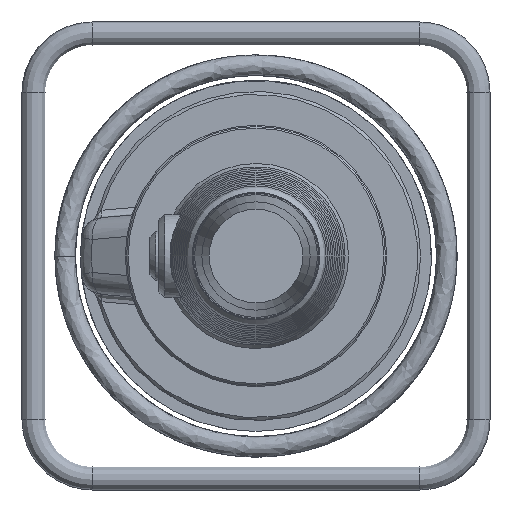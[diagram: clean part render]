
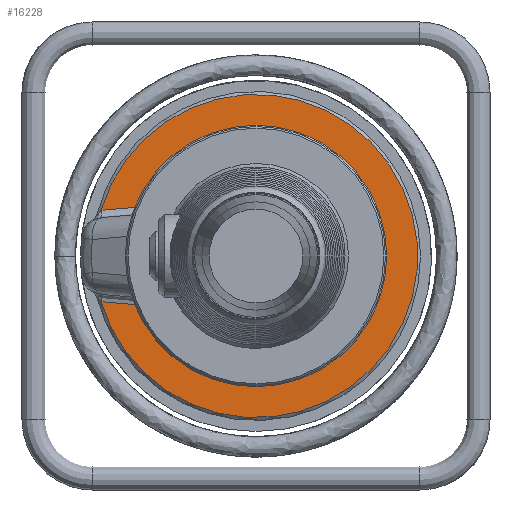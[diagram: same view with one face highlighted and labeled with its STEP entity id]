
A CAD part, left-side view. The second image highlights one B-rep face of the part: STEP entity #16228.
In plain terms, the highlighted planar face has unit normal (-1, 0, 0).
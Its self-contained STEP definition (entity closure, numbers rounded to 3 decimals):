
#1957=PLANE('',#17171);
#2751=FACE_OUTER_BOUND('',#3852,.T.);
#3852=EDGE_LOOP('',(#14413,#14414,#14415,#14416));
#5073=LINE('',#37358,#5989);
#5074=LINE('',#37362,#5990);
#5989=VECTOR('',#19920,40.842);
#5990=VECTOR('',#19923,40.842);
#6347=CIRCLE('',#17172,110.5);
#6348=CIRCLE('',#17173,74.);
#7904=VERTEX_POINT('',#37356);
#7905=VERTEX_POINT('',#37357);
#7906=VERTEX_POINT('',#37359);
#7907=VERTEX_POINT('',#37361);
#10122=EDGE_CURVE('',#7904,#7905,#5073,.T.);
#10123=EDGE_CURVE('',#7906,#7904,#6347,.T.);
#10124=EDGE_CURVE('',#7907,#7906,#5074,.T.);
#10125=EDGE_CURVE('',#7907,#7905,#6348,.T.);
#14413=ORIENTED_EDGE('',*,*,#10122,.F.);
#14414=ORIENTED_EDGE('',*,*,#10123,.F.);
#14415=ORIENTED_EDGE('',*,*,#10124,.F.);
#14416=ORIENTED_EDGE('',*,*,#10125,.T.);
#16228=ADVANCED_FACE('',(#2751),#1957,.T.);
#17171=AXIS2_PLACEMENT_3D('',#37355,#19918,#19919);
#17172=AXIS2_PLACEMENT_3D('',#37360,#19921,#19922);
#17173=AXIS2_PLACEMENT_3D('',#37363,#19924,#19925);
#19918=DIRECTION('center_axis',(-1.,0.,0.));
#19919=DIRECTION('ref_axis',(0.,0.,1.));
#19920=DIRECTION('',(0.,-0.996,-0.087));
#19921=DIRECTION('center_axis',(1.,0.,0.));
#19922=DIRECTION('ref_axis',(0.,-1.,0.));
#19923=DIRECTION('',(0.,0.996,-0.087));
#19924=DIRECTION('center_axis',(1.,0.,0.));
#19925=DIRECTION('ref_axis',(0.,-1.,0.));
#37355=CARTESIAN_POINT('Origin',(-20.,-92.25,0.));
#37356=CARTESIAN_POINT('',(-20.,105.991,-31.245));
#37357=CARTESIAN_POINT('',(-20.,65.304,-34.804));
#37358=CARTESIAN_POINT('',(-20.,0.632,-40.462));
#37359=CARTESIAN_POINT('',(-20.,105.991,31.245));
#37360=CARTESIAN_POINT('Origin',(-20.,0.,
0.));
#37361=CARTESIAN_POINT('',(-20.,65.304,34.804));
#37362=CARTESIAN_POINT('',(-20.,0.632,40.462));
#37363=CARTESIAN_POINT('Origin',(-20.,0.,
0.));
